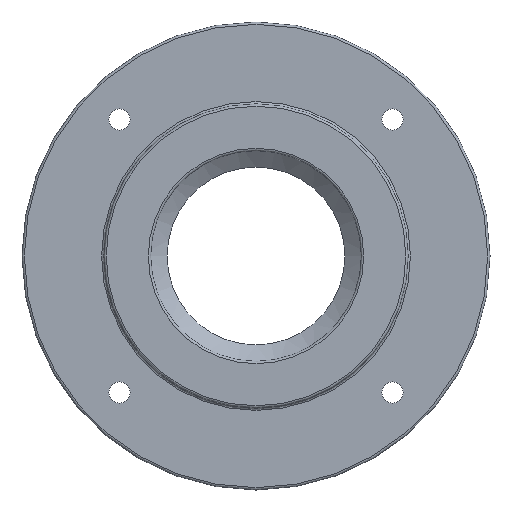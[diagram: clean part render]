
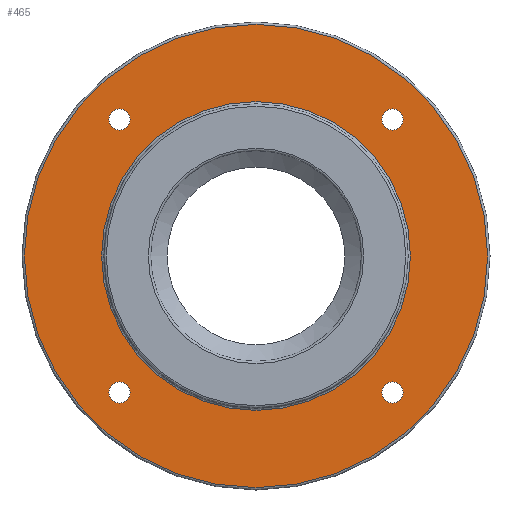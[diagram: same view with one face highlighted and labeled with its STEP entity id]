
A CAD part, front view. The second image highlights one B-rep face of the part: STEP entity #465.
In plain terms, the highlighted planar face has unit normal (0, -1, 0).
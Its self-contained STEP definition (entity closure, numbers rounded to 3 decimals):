
#105=CARTESIAN_POINT('',(-53.836,-28.0,58.336));
#106=VERTEX_POINT('',#105);
#107=CARTESIAN_POINT('',(-58.336,-28.0,58.336));
#108=DIRECTION('',(0.0,1.0,0.0));
#109=DIRECTION('',(1.0,0.0,0.0));
#110=AXIS2_PLACEMENT_3D('',#107,#108,#109);
#111=CIRCLE('',#110,4.5);
#112=EDGE_CURVE('',#106,#106,#111,.T.);
#154=CARTESIAN_POINT('',(-53.836,-28.0,-58.336));
#155=VERTEX_POINT('',#154);
#156=CARTESIAN_POINT('',(-58.336,-28.0,-58.336));
#157=DIRECTION('',(0.0,1.0,0.0));
#158=DIRECTION('',(1.0,0.0,0.0));
#159=AXIS2_PLACEMENT_3D('',#156,#157,#158);
#160=CIRCLE('',#159,4.5);
#161=EDGE_CURVE('',#155,#155,#160,.T.);
#203=CARTESIAN_POINT('',(62.836,-28.0,-58.336));
#204=VERTEX_POINT('',#203);
#205=CARTESIAN_POINT('',(58.336,-28.0,-58.336));
#206=DIRECTION('',(0.0,1.0,0.0));
#207=DIRECTION('',(1.0,0.0,0.0));
#208=AXIS2_PLACEMENT_3D('',#205,#206,#207);
#209=CIRCLE('',#208,4.5);
#210=EDGE_CURVE('',#204,#204,#209,.T.);
#252=CARTESIAN_POINT('',(62.836,-28.0,58.336));
#253=VERTEX_POINT('',#252);
#254=CARTESIAN_POINT('',(58.336,-28.0,58.336));
#255=DIRECTION('',(0.0,1.0,0.0));
#256=DIRECTION('',(1.0,0.0,0.0));
#257=AXIS2_PLACEMENT_3D('',#254,#255,#256);
#258=CIRCLE('',#257,4.5);
#259=EDGE_CURVE('',#253,#253,#258,.T.);
#419=CARTESIAN_POINT('',(-99.0,-28.0,0.0));
#420=VERTEX_POINT('',#419);
#421=CARTESIAN_POINT('',(0.0,-28.0,0.0));
#422=DIRECTION('',(0.0,1.0,0.0));
#423=DIRECTION('',(1.0,0.0,0.0));
#424=AXIS2_PLACEMENT_3D('',#421,#422,#423);
#425=CIRCLE('',#424,99.0);
#426=EDGE_CURVE('',#420,#420,#425,.T.);
#434=CARTESIAN_POINT('',(-82.5,-28.0,0.));
#435=DIRECTION('',(0.0,-1.0,0.0));
#436=DIRECTION('',(0.0,0.0,-1.0));
#437=AXIS2_PLACEMENT_3D('',#434,#435,#436);
#438=PLANE('',#437);
#439=ORIENTED_EDGE('',*,*,#426,.F.);
#440=EDGE_LOOP('',(#439));
#441=FACE_OUTER_BOUND('',#440,.T.);
#442=ORIENTED_EDGE('',*,*,#112,.T.);
#443=EDGE_LOOP('',(#442));
#444=FACE_BOUND('',#443,.T.);
#445=ORIENTED_EDGE('',*,*,#161,.T.);
#446=EDGE_LOOP('',(#445));
#447=FACE_BOUND('',#446,.T.);
#448=ORIENTED_EDGE('',*,*,#210,.T.);
#449=EDGE_LOOP('',(#448));
#450=FACE_BOUND('',#449,.T.);
#451=ORIENTED_EDGE('',*,*,#259,.T.);
#452=EDGE_LOOP('',(#451));
#453=FACE_BOUND('',#452,.T.);
#454=CARTESIAN_POINT('',(-66.0,-28.0,0.));
#455=VERTEX_POINT('',#454);
#456=CARTESIAN_POINT('',(0.0,-28.0,0.0));
#457=DIRECTION('',(0.0,-1.0,0.0));
#458=DIRECTION('',(1.0,0.0,0.0));
#459=AXIS2_PLACEMENT_3D('',#456,#457,#458);
#460=CIRCLE('',#459,66.0);
#461=EDGE_CURVE('',#455,#455,#460,.T.);
#462=ORIENTED_EDGE('',*,*,#461,.F.);
#463=EDGE_LOOP('',(#462));
#464=FACE_BOUND('',#463,.T.);
#465=ADVANCED_FACE('',(#441,#444,#447,#450,#453,#464),#438,.T.);
